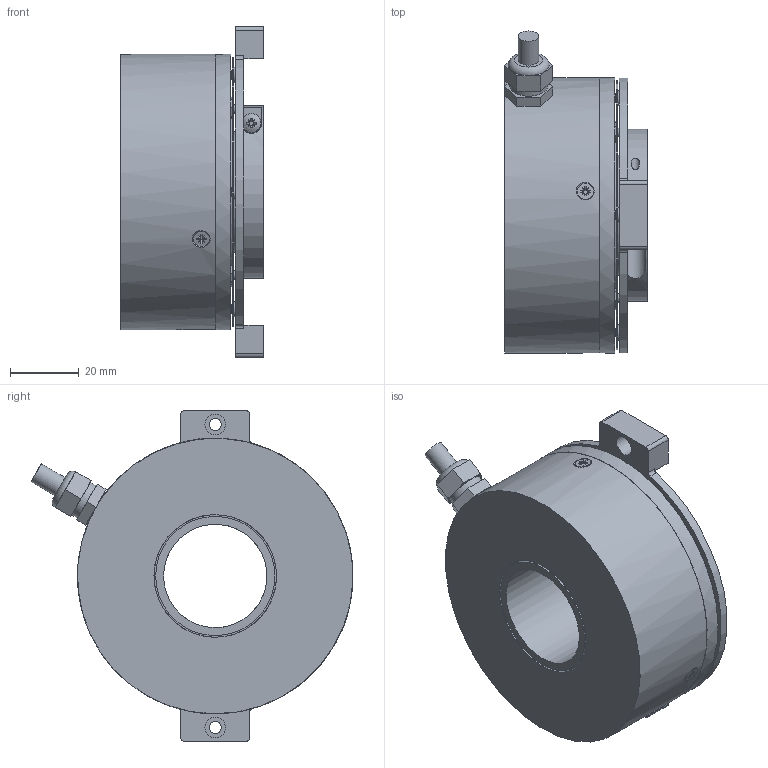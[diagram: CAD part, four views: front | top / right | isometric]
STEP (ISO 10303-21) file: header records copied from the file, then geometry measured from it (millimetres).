
FILE_DESCRIPTION(('STEP AP242'), '1');
FILE_NAME('SE80T30', '2025-07-22T20:17:01', (''), (''), 'C3D Converter', 'C3D Toolkit', '');
FILE_SCHEMA(('AP242_MANAGED_MODEL_BASED_3D_ENGINEERING_MIM_LF { 1 0 10303 442 1 1 4 }'));
Length unit declared in the file: millimetre
Products named in the file (30): ДМШК.401269.054; __; __1
Assembly tree (48 placements, depth 4):
  ДМШК.401269.054
    (unnamed)
    (unnamed)
    (unnamed)
    (unnamed)
    (unnamed)
    (unnamed)
    (unnamed)
    (unnamed)
    (unnamed)
    (unnamed)
    (unnamed)
    (unnamed)
    (unnamed)
    (unnamed)
    (unnamed)
    (unnamed)
    (unnamed)
    (unnamed)
    (unnamed)
    (unnamed)
    (unnamed)
    (unnamed)
    (unnamed)
    (unnamed)
    (unnamed)
      __
      __1
      __
        __  x20
Bounding box: 41.5 x 93.47 x 96 mm (x, y, z)
Volume: 112347.3 mm3; surface area: 74023.2 mm2
Topology: 46 solids, 55 shells, 922 faces, 2322 edges, 1513 vertices
Faces by surface type: plane 622, cylinder 192, cone 70, sphere 25, torus 7, bspline 6
Full cylindrical faces by diameter (mm): 1.6 x8, 1.7 x7, 2 x3, 2.05 x4, 2.125 x4, 2.5 x24, 2.55 x1, 2.6 x4, 3 x1, 3.5 x3, 4.5 x4, 4.7 x7, 5 x4, 5.5 x1, 6 x8, 6.8 x1, 8 x1, 10.85 x1, 30 x1, 34.25 x1, 34.4 x1, 34.6 x2, 35 x3, 35.6 x2, 38.7 x2, 39.8 x1, 42.8 x1, 43 x1, 43.5 x2, 47 x4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
Entity records: 43171 total; most frequent: CARTESIAN_POINT 12836, DIRECTION 4367, ORIENTED_EDGE 4176, EDGE_CURVE 2088, AXIS2_PLACEMENT_3D 1587, VERTEX_POINT 1454, LINE 1193, VECTOR 1193
